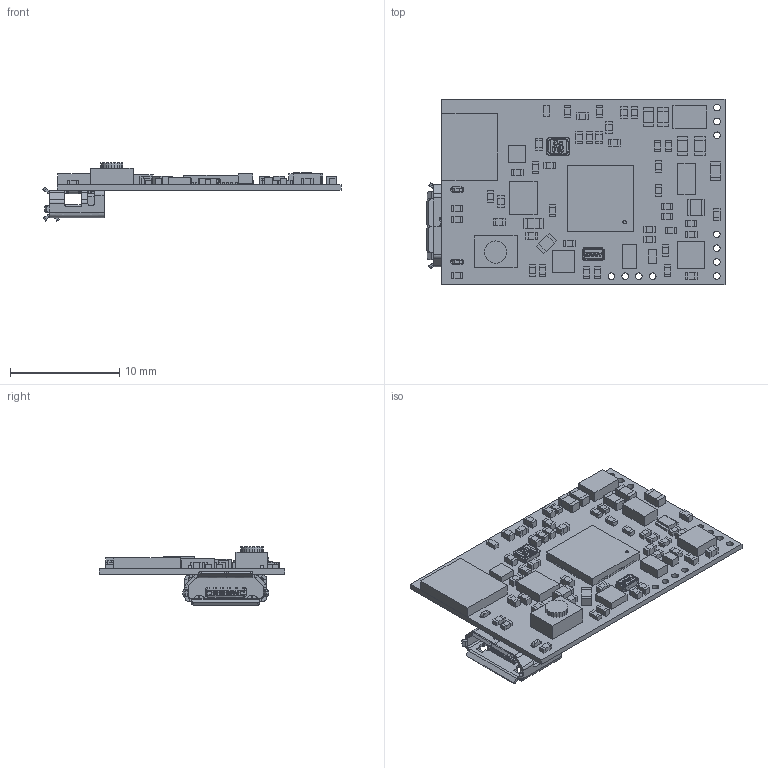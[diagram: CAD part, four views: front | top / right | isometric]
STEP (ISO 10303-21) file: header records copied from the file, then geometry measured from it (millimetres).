
FILE_DESCRIPTION(('Open CASCADE Model'),'2;1');
FILE_NAME('Open CASCADE Shape Model','2018-05-11T16:14:43',('Author'),( 'Open CASCADE'),'Open CASCADE STEP processor 6.8','Open CASCADE 6.8' ,'Unknown');
FILE_SCHEMA(('AUTOMOTIVE_DESIGN { 1 0 10303 214 1 1 1 1 }'));
Length unit declared in the file: millimetre
Products named in the file (141): PCB; Board; R16; 631842896; Extruded; 631843024; R15; 631845200; 631845328; R14; S1; 631842256; 619822048; J1; 10118193-0001lfc; U1; 631844432; C4; 619822176; 619822432; C5; 631847248; C1; 619822304; 619822560; R1; U2; 619821536; C13; 631844816; 631843920; D2; 631841232; 631841360; 631841616; Q1; 631843152; R2; D1; 631846224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
Assembly tree (271 placements, depth 4):
  PCB
    Board
    R16
      631842896  x2
        Extruded
      631843024
        Extruded
    R15
      631845200  x2
        Extruded
      631845328
        Extruded
    R14
      631845200  x2
        Extruded
      631845328
        Extruded
    S1
      631842256
        Extruded
      619822048
        Extruded
    J1
      10118193-0001lfc
    U1
      631844432
        Extruded
    C4
      619822176  x2
        Extruded
      619822432
        Extruded
    C5
      619822176  x2
        Extruded
      631847248
        Extruded
    C1
      619822176
        Extruded
      619822304
        Extruded
      619822560
        Extruded
    R1
      631845200  x2
        Extruded
      631845328
        Extruded
    U2
      619821536
        Extruded
    C13
      631844816  x2
        Extruded
      631843920
        Extruded
    D2
      631841232
        Extruded
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Bounding box: 27.29 x 17 x 5.32 mm (x, y, z)
Volume: 369.4 mm3; surface area: 1909.2 mm2
Topology: 175 solids, 957 shells, 2708 faces, 8553 edges, 6998 vertices
Faces by surface type: plane 1499, bspline 1043, cylinder 146, torus 16, sphere 4
Full cylindrical faces by diameter (mm): 0.61 x11
Entity records: 98890 total; most frequent: CARTESIAN_POINT 31364, ORIENTED_EDGE 9966, DIRECTION 9713, EDGE_CURVE 6973, VERTEX_POINT 5950, LINE 5019, VECTOR 5019, AXIS2_PLACEMENT_3D 2347
